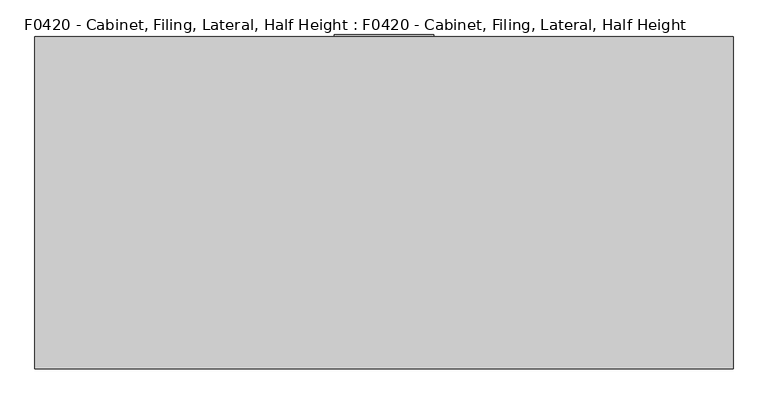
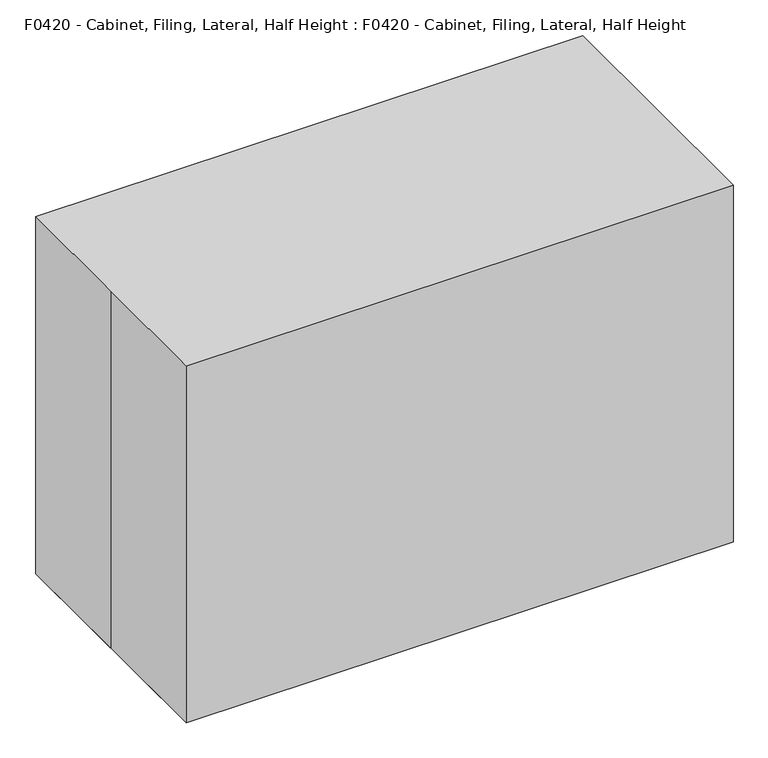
"""IFC4 building model written with IfcOpenShell, lengths in millimetres: proxy geometry, F0420 - Cabinet, Filing, Lateral, Half Height : F0420 - Cabinet, Filing, Lateral, Half Height."""

from ifc_helpers import new_model, si_unit, point, frame, frame_2d, origin, place, context, project, spatial, polyline, circle_curve, trimmed, segment, composite_curve, outline, extrude, faceted_brep, source, transform, mapped, element, save


def f0420_cabinet_filing_lateral_half_height_f0420_cabinet_7300756f(model_context):
    return source(origin(), model_context, "Body", "SolidModel", [
        extrude(outline(composite_curve([segment(trimmed(circle_curve(frame_2d((469.9, 0.0)), 12.7), [point((469.9, -12.7))], [point((469.9, 12.7))], False, "CARTESIAN"), True, "CONTINUOUS"), segment(trimmed(circle_curve(frame_2d((469.9, 0.0)), 12.7), [point((469.9, 12.7))], [point((469.9, -12.7))], False, "CARTESIAN"), True, "CONTINUOUS")], self_intersect=False)), frame((0.0, 254.0, 0.0), z_axis=(0.0, 1.0, 0.0), x_axis=(0.0, 0.0, 1.0)), (0.0, 0.0, 1.0), 3.175),
        extrude(outline(composite_curve([segment(trimmed(circle_curve(frame_2d((114.3, 0.0)), 12.7), [point((114.3, -12.7))], [point((114.3, 12.7))], False, "CARTESIAN"), True, "CONTINUOUS"), segment(trimmed(circle_curve(frame_2d((114.3, 0.0)), 12.7), [point((114.3, 12.7))], [point((114.3, -12.7))], False, "CARTESIAN"), True, "CONTINUOUS")], self_intersect=False)), frame((0.0, 254.0, 0.0), z_axis=(0.0, 1.0, 0.0), x_axis=(0.0, 0.0, 1.0)), (0.0, 0.0, 1.0), 3.175),
        extrude(outline(polyline([(654.05, 76.2), (654.05, -76.2), (590.55, -76.2), (590.55, 76.2), (654.05, 76.2)]), holes=[polyline([(647.7, 69.85), (596.9, 69.85), (596.9, -69.85), (647.7, -69.85), (647.7, 69.85)])]), frame((0.0, 254.0, 0.0), z_axis=(0.0, 1.0, 0.0), x_axis=(0.0, 0.0, 1.0)), (0.0, 0.0, 1.0), 3.175),
        extrude(outline(polyline([(298.45, 76.2), (298.45, -76.2), (234.95, -76.2), (234.95, 76.2), (298.45, 76.2)]), holes=[polyline([(292.1, 69.85), (241.3, 69.85), (241.3, -69.85), (292.1, -69.85), (292.1, 69.85)])]), frame((0.0, 254.0, 0.0), z_axis=(0.0, 1.0, 0.0), x_axis=(0.0, 0.0, 1.0)), (0.0, 0.0, 1.0), 3.175),
        faceted_brep([(504.825, 254.0, 708.025), (504.825, 254.0, 384.175), (-504.825, 254.0, 384.175), (-504.825, 254.0, 708.025), (-101.6, 254.0, 571.5), (-101.6, 254.0, 520.7), (101.6, 254.0, 520.7), (101.6, 254.0, 571.5), (504.825, 0.0, 708.025), (-504.825, 0.0, 708.025), (-504.825, 0.0, 384.175), (504.825, 0.0, 384.175), (101.6, 228.6, 571.5), (101.6, 228.6, 520.7), (-101.6, 228.6, 520.7), (-101.6, 228.6, 571.5)], [[[0, 1, 2, 3], [4, 5, 6, 7]], [[8, 9, 10, 11]], [[3, 9, 8, 0]], [[2, 10, 9, 3]], [[1, 11, 10, 2]], [[0, 8, 11, 1]], [[12, 13, 14, 15]], [[15, 4, 7, 12]], [[14, 5, 4, 15]], [[13, 6, 5, 14]], [[12, 7, 6, 13]]]),
        faceted_brep([(504.825, 254.0, 352.425), (504.825, 254.0, 28.575), (-504.825, 254.0, 28.575), (-504.825, 254.0, 352.425), (-101.6, 254.0, 215.9), (-101.6, 254.0, 165.1), (101.6, 254.0, 165.1), (101.6, 254.0, 215.9), (504.825, 0.0, 352.425), (-504.825, 0.0, 352.425), (-504.825, 0.0, 28.575), (504.825, 0.0, 28.575), (101.6, 228.6, 215.9), (101.6, 228.6, 165.1), (-101.6, 228.6, 165.1), (-101.6, 228.6, 215.9)], [[[0, 1, 2, 3], [4, 5, 6, 7]], [[8, 9, 10, 11]], [[3, 9, 8, 0]], [[2, 10, 9, 3]], [[1, 11, 10, 2]], [[0, 8, 11, 1]], [[12, 13, 14, 15]], [[15, 4, 7, 12]], [[14, 5, 4, 15]], [[13, 6, 5, 14]], [[12, 7, 6, 13]]]),
        faceted_brep([(-533.4, -254.0, 736.6), (533.4, -254.0, 736.6), (533.4, 254.0, 736.6), (-533.4, 254.0, 736.6), (-533.4, 0.0, 736.6), (-533.4, -254.0, 0.0), (-533.4, 0.0, 0.0), (-533.4, 254.0, 0.0), (533.4, 254.0, 0.0), (533.4, -254.0, 0.0), (-101.6, 254.0, 571.5), (-101.6, 254.0, 520.7), (101.6, 254.0, 520.7), (101.6, 254.0, 571.5), (-101.6, 254.0, 215.9), (-101.6, 254.0, 165.1), (101.6, 254.0, 165.1), (101.6, 254.0, 215.9), (101.6, 228.6, 571.5), (101.6, 228.6, 520.7), (-101.6, 228.6, 520.7), (-101.6, 228.6, 571.5), (101.6, 228.6, 215.9), (101.6, 228.6, 165.1), (-101.6, 228.6, 165.1), (-101.6, 228.6, 215.9)], [[[0, 1, 2, 3, 4]], [[5, 6, 7, 8, 9]], [[4, 6, 5, 0]], [[3, 7, 6, 4]], [[2, 8, 7, 3], [10, 11, 12, 13], [14, 15, 16, 17]], [[1, 9, 8, 2]], [[0, 5, 9, 1]], [[18, 19, 20, 21]], [[22, 23, 24, 25]], [[21, 10, 13, 18]], [[20, 11, 10, 21]], [[19, 12, 11, 20]], [[18, 13, 12, 19]], [[25, 14, 17, 22]], [[24, 15, 14, 25]], [[23, 16, 15, 24]], [[22, 17, 16, 23]]]),
        faceted_brep([(533.4, 254.0, 736.6), (533.4, 254.0, 0.0), (-533.4, 254.0, 0.0), (-533.4, 254.0, 736.6), (508.0, 254.0, 711.2), (-508.0, 254.0, 711.2), (-508.0, 254.0, 381.0), (508.0, 254.0, 381.0), (508.0, 254.0, 355.6), (-508.0, 254.0, 355.6), (-508.0, 254.0, 25.4), (508.0, 254.0, 25.4), (-533.4, -254.0, 736.6), (533.4, -254.0, 736.6), (-533.4, -254.0, 0.0), (533.4, -254.0, 0.0), (508.0, -228.6, 381.0), (508.0, -228.6, 711.2), (-508.0, -228.6, 381.0), (-508.0, -228.6, 711.2), (508.0, -228.6, 25.4), (508.0, -228.6, 355.6), (-508.0, -228.6, 25.4), (-508.0, -228.6, 355.6)], [[[0, 1, 2, 3], [4, 5, 6, 7], [8, 9, 10, 11]], [[3, 12, 13, 0]], [[2, 14, 12, 3]], [[1, 15, 14, 2]], [[0, 13, 15, 1]], [[7, 16, 17, 4]], [[6, 18, 16, 7]], [[5, 19, 18, 6]], [[4, 17, 19, 5]], [[11, 20, 21, 8]], [[10, 22, 20, 11]], [[9, 23, 22, 10]], [[8, 21, 23, 9]], [[12, 14, 15, 13]], [[16, 18, 19, 17]], [[20, 22, 23, 21]]]),
    ])


if __name__ == "__main__":
    model = new_model("IFC4")
    model_context = context("Model", 3, world=origin())
    ifc_project = project(units=[si_unit("LENGTHUNIT", "METRE", prefix="MILLI")], contexts=[model_context])
    site = spatial("IfcSite", under=ifc_project)
    building = spatial("IfcBuilding", under=site)
    placement = place(None, origin())
    f0420_cabinet_filing_lateral_half_height_f0420_cabinet_shape = f0420_cabinet_filing_lateral_half_height_f0420_cabinet_7300756f(model_context)
    element("IfcBuildingElementProxy", 1, Name="F0420 - Cabinet, Filing, Lateral, Half Height : F0420 - Cabinet, Filing, Lateral, Half Height", ObjectType="F0420 - Cabinet, Filing, Lateral, Half Height : F0420 - Cabinet, Filing, Lateral, Half Height", at=placement, inside=building, context=model_context, shape_type="MappedRepresentation", body=[
        mapped(f0420_cabinet_filing_lateral_half_height_f0420_cabinet_shape, transform((0.0, 0.0, 0.0), x_axis=(1.0, 0.0, 0.0), y_axis=(0.0, 1.0, 0.0), z_axis=(0.0, 0.0, 1.0))),
    ])
    save(model, "model.ifc")
